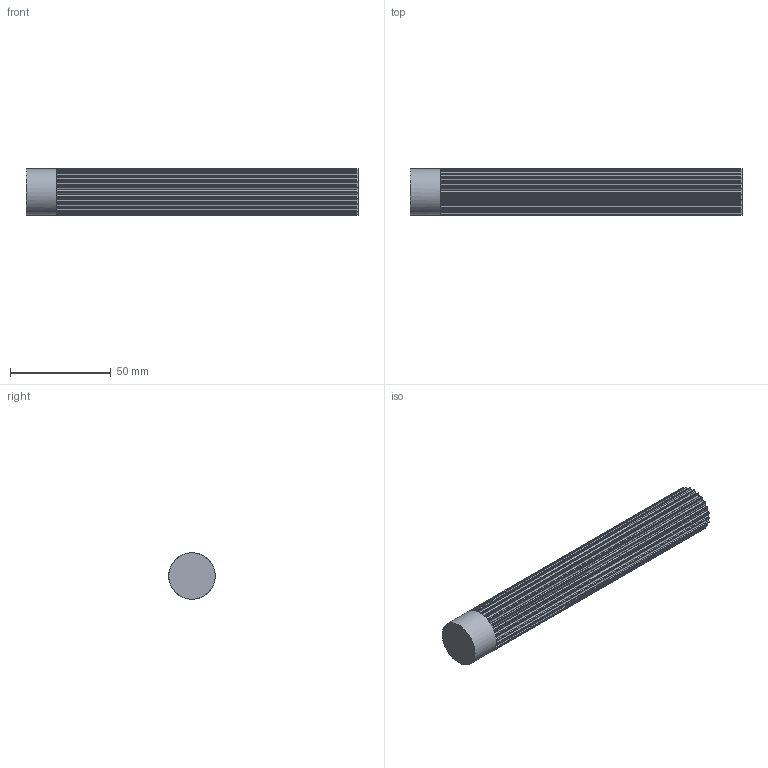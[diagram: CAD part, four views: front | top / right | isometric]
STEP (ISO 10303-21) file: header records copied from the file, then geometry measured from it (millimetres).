
FILE_DESCRIPTION( ( 'STEP AP214' ), '1' );
FILE_NAME( 'C:/Users/StangenbergN/Desktop/Steps Zahnriemenräder/K166_HTD-Zahnwellen/17092500.stp', '2019-06-06T09:34:13', ( '' ), ( '' ), ' ', 'PARTsolutions', ' ' );
FILE_SCHEMA( ( 'AUTOMOTIVE_DESIGN { 1 0 10303 214 1 1 1 1 }' ) );
Length unit declared in the file: millimetre
Products named in the file (1): _17092500
Bounding box: 165 x 23.11 x 23.11 mm (x, y, z)
Volume: 61301.8 mm3; surface area: 16794.9 mm2
Topology: 1 solids, 1 shells, 203 faces, 603 edges, 402 vertices
Faces by surface type: plane 102, cylinder 101
Full cylindrical faces by diameter (mm): 23.11 x1
Entity records: 8534 total; most frequent: DIRECTION 1260, CARTESIAN_POINT 1206, ORIENTED_EDGE 1202, EDGE_CURVE 601, AXIS2_PLACEMENT_3D 455, VERTEX_POINT 401, LINE 350, VECTOR 350
